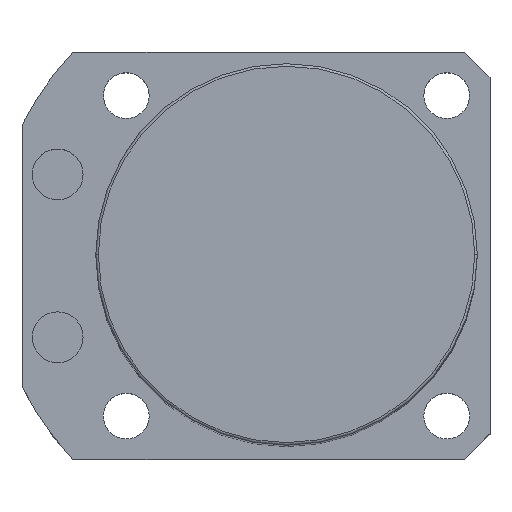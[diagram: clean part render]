
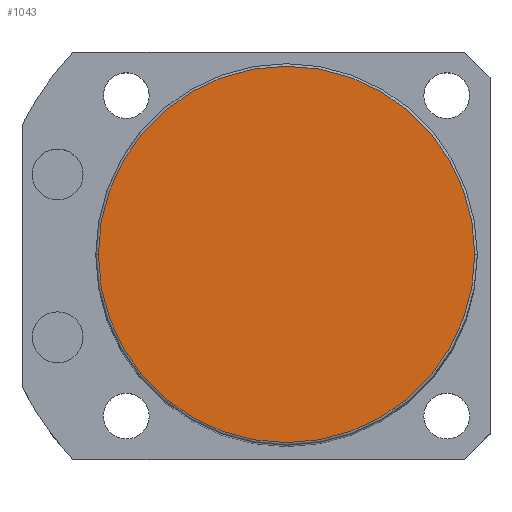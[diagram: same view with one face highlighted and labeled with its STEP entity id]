
A CAD part, top view. The second image highlights one B-rep face of the part: STEP entity #1043.
In plain terms, the highlighted planar face has unit normal (0, 0, 1).
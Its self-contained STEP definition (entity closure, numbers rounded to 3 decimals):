
#33 = AXIS2_PLACEMENT_3D ( 'NONE', #453, #2355, #623 ) ;
#107 = DIRECTION ( 'NONE',  ( 0., 0., 1. ) ) ;
#213 = CARTESIAN_POINT ( 'NONE',  ( 37., 0., 180.5 ) ) ;
#403 = FACE_OUTER_BOUND ( 'NONE', #2161, .T. ) ;
#453 = CARTESIAN_POINT ( 'NONE',  ( 0., 0., 180.5 ) ) ;
#623 = DIRECTION ( 'NONE',  ( 1., 0., 0. ) ) ;
#659 = CARTESIAN_POINT ( 'NONE',  ( -37., 0., 180.5 ) ) ;
#697 = CARTESIAN_POINT ( 'NONE',  ( 0., 0., 180.5 ) ) ;
#841 = EDGE_CURVE ( 'NONE', #1061, #1330, #886, .T. ) ;
#886 = CIRCLE ( 'NONE', #1819, 37. ) ;
#932 = CIRCLE ( 'NONE', #33, 37. ) ;
#1017 = EDGE_CURVE ( 'NONE', #1330, #1061, #932, .T. ) ;
#1043 = ADVANCED_FACE ( 'NONE', ( #403 ), #1376, .T. ) ;
#1061 = VERTEX_POINT ( 'NONE', #659 ) ;
#1330 = VERTEX_POINT ( 'NONE', #213 ) ;
#1376 = PLANE ( 'NONE',  #2077 ) ;
#1819 = AXIS2_PLACEMENT_3D ( 'NONE', #697, #2212, #2405 ) ;
#1863 = ORIENTED_EDGE ( 'NONE', *, *, #841, .T. ) ;
#2077 = AXIS2_PLACEMENT_3D ( 'NONE', #2372, #107, #2393 ) ;
#2161 = EDGE_LOOP ( 'NONE', ( #2253, #1863 ) ) ;
#2212 = DIRECTION ( 'NONE',  ( 0., 0., 1. ) ) ;
#2253 = ORIENTED_EDGE ( 'NONE', *, *, #1017, .T. ) ;
#2355 = DIRECTION ( 'NONE',  ( 0., 0., 1. ) ) ;
#2372 = CARTESIAN_POINT ( 'NONE',  ( 0., 0., 180.5 ) ) ;
#2393 = DIRECTION ( 'NONE',  ( 1., 0., 0. ) ) ;
#2405 = DIRECTION ( 'NONE',  ( 1., 0., 0. ) ) ;
